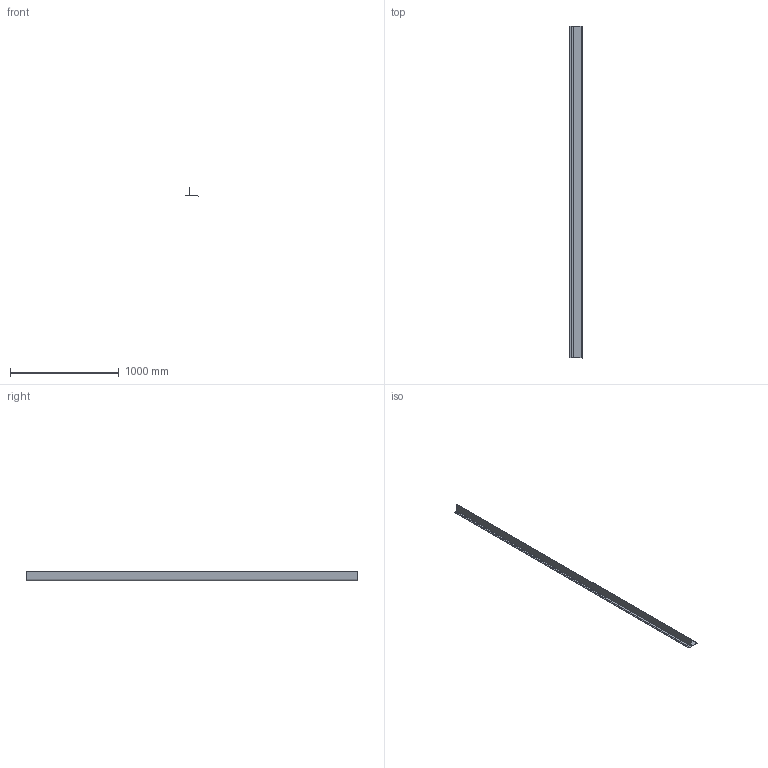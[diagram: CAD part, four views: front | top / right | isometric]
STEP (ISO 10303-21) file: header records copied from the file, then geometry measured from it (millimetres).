
FILE_DESCRIPTION(/* description */ (''),/* implementation_level */ '2;1');
FILE_NAME(/* name */ 'C:\Users\Utilisateur\Mac Metal\Site de communication - Documents\Ingénierie\Développement de produits\Board and Batten\Dessins\Moulures\M56H\M56H.stp',/* time_stamp */ '2022-06-29T17:23:58-04:00',/* author */ ('Utilisateur'),/* organization */ (''),/* preprocessor_version */ 'ST-DEVELOPER v18.1',/* originating_system */ 'Autodesk Inventor 2021',/* authorisation */ '');
FILE_SCHEMA (('AUTOMOTIVE_DESIGN { 1 0 10303 214 3 1 1 }'));
Length unit declared in the file: inch
Products named in the file (1): Solin à palette variable
Bounding box: 119.54 x 3048 x 90.9 mm (x, y, z)
Volume: 584281.9 mm3; surface area: 1888433.2 mm2
Topology: 1 solids, 1 shells, 26 faces, 72 edges, 48 vertices
Faces by surface type: plane 16, cylinder 10
Entity records: 879 total; most frequent: CARTESIAN_POINT 147, DIRECTION 146, ORIENTED_EDGE 144, EDGE_CURVE 72, LINE 52, VECTOR 52, VERTEX_POINT 48, AXIS2_PLACEMENT_3D 47
